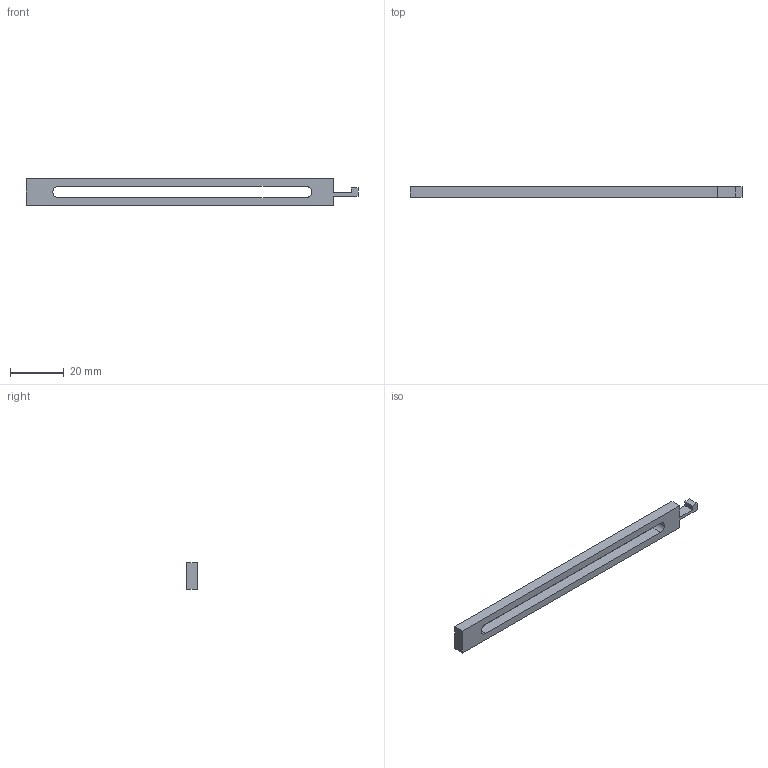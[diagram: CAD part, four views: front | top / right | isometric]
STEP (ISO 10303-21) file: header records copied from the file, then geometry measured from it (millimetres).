
FILE_DESCRIPTION(('Open CASCADE Model'),'2;1');
FILE_NAME('Open CASCADE Shape Model','2026-11-08T07:33:08',('Author'),( 'Open CASCADE'),'Open CASCADE STEP processor 7.8','Open CASCADE 7.8' ,'Unknown');
FILE_SCHEMA(('AUTOMOTIVE_DESIGN { 1 0 10303 214 1 1 1 1 }'));
Length unit declared in the file: millimetre
Products named in the file (1): Open CASCADE STEP translator 7.8 17
Bounding box: 123.25 x 4 x 10 mm (x, y, z)
Volume: 3021.4 mm3; surface area: 3379.9 mm2
Topology: 1 solids, 1 shells, 16 faces, 42 edges, 28 vertices
Faces by surface type: plane 14, cylinder 2
Entity records: 1062 total; most frequent: CARTESIAN_POINT 195, DIRECTION 160, LINE 118, VECTOR 118, ORIENTED_EDGE 84, PCURVE 84, DEFINITIONAL_REPRESENTATION 84, EDGE_CURVE 42
